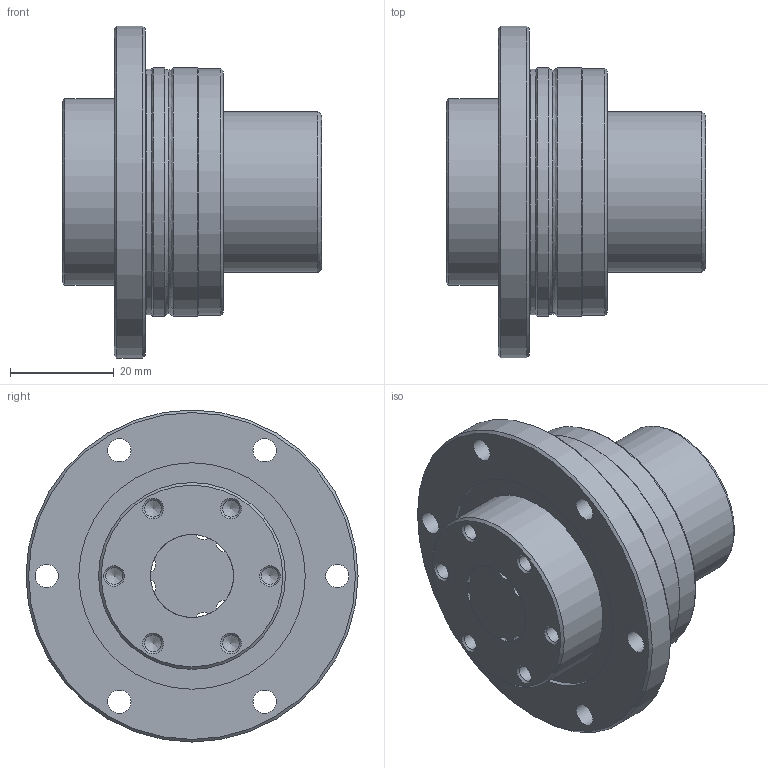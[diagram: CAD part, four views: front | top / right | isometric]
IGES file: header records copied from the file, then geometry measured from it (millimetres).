
Start section: Data from Parasolid IGES Translator 26.0.171, Copyright(c) 2006 Siemens PLM Software. All Rights Reserved.
Global section: file name: LTR16A+50L(0_0).igs; native system: By Siemens PLM Incorporated; preprocessor: XPlus GENERIC/IGES 26.0.171; author: Noname; organization: Noname; date: 20240528.075201; units: millimetre
Bounding box: 50 x 64 x 64 mm (x, y, z)
Surface area: 35779.4 mm2 (no closed solid volume)
Topology: 0 solids, 0 shells, 127 faces, 658 edges, 582 vertices
Faces by surface type: revolution 107, extrusion 20
